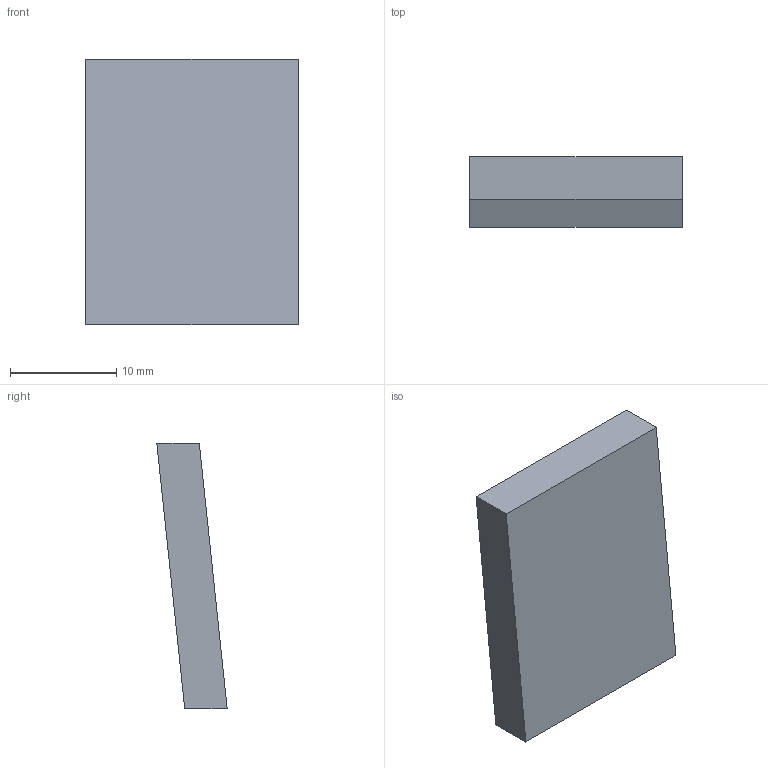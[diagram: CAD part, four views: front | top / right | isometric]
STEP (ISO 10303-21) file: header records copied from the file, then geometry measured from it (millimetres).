
FILE_DESCRIPTION(('Open CASCADE Model'),'2;1');
FILE_NAME('Open CASCADE Shape Model','2026-10-16T00:30:56',('Author'),( 'Open CASCADE'),'Open CASCADE STEP processor 7.9','Open CASCADE 7.9' ,'Unknown');
FILE_SCHEMA(('AUTOMOTIVE_DESIGN { 1 0 10303 214 1 1 1 1 }'));
Length unit declared in the file: millimetre
Products named in the file (1): Open CASCADE STEP translator 7.9 36
Bounding box: 20 x 6.63 x 25 mm (x, y, z)
Volume: 2000 mm3; surface area: 1365.5 mm2
Topology: 1 solids, 1 shells, 6 faces, 12 edges, 8 vertices
Faces by surface type: plane 6
Entity records: 322 total; most frequent: CARTESIAN_POINT 51, DIRECTION 50, LINE 36, VECTOR 36, ORIENTED_EDGE 24, PCURVE 24, DEFINITIONAL_REPRESENTATION 24, EDGE_CURVE 12
